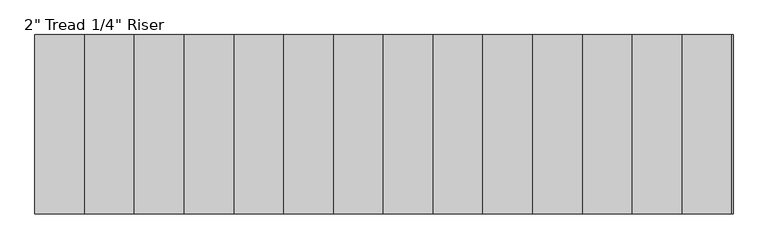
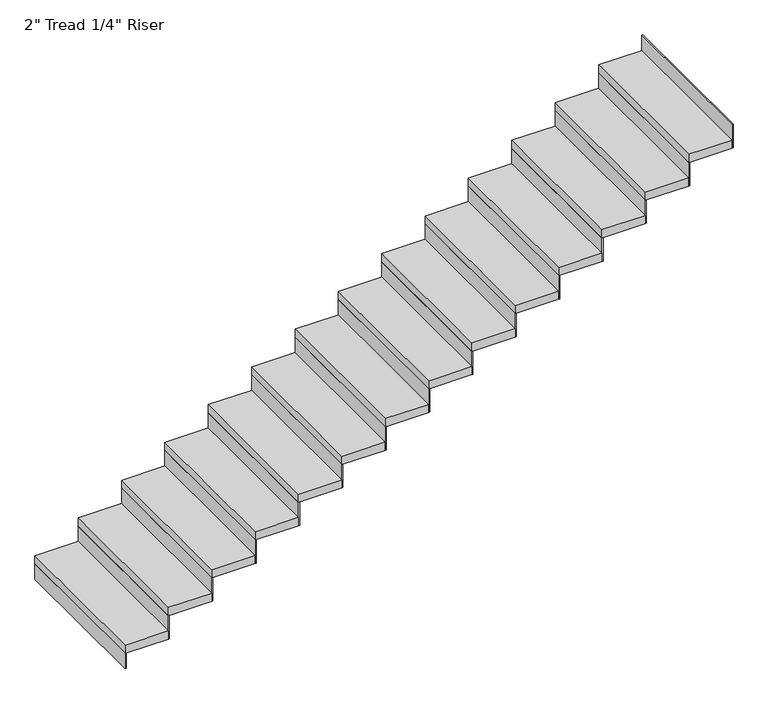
"""IFC4 building model written with IfcOpenShell, lengths in millimetres: stair flight geometry."""

from ifc_helpers import new_model, si_unit, frame, origin, origin_with_axes, place, context, project, spatial, polyline, outline, extrude, source, transform, mapped, element, save


def stair_flight_54aec304(model_context):
    return source(origin(), model_context, "Body", "SweptSolid", [
        extrude(outline(polyline([(108752.5286089, -18868.6990002), (108746.1786089, -18868.6990002), (108746.1786089, -17954.2990002), (108752.5286089, -17954.2990002), (108752.5286089, -18868.6990002)])), origin_with_axes(), (0.0, 0.0, 1.0), 94.3428571),
        extrude(outline(polyline([(109000.1786089, -17954.2990002), (109000.1786089, -18868.6990002), (108746.1786089, -18868.6990002), (108746.1786089, -17954.2990002), (109000.1786089, -17954.2990002)])), frame((0.0, 0.0, 94.3428571), z_axis=(0.0, 0.0, 1.0), x_axis=(1.0, 0.0, 0.0)), (0.0, 0.0, 1.0), 50.8),
        extrude(outline(polyline([(109006.5286089, -18868.6990002), (109000.1786089, -18868.6990002), (109000.1786089, -17954.2990002), (109006.5286089, -17954.2990002), (109006.5286089, -18868.6990002)])), frame((0.0, 0.0, 94.3428571), z_axis=(0.0, 0.0, 1.0), x_axis=(1.0, 0.0, 0.0)), (0.0, 0.0, 1.0), 145.1428571),
        extrude(outline(polyline([(109254.1786089, -17954.2990002), (109254.1786089, -18868.6990002), (109000.1786089, -18868.6990002), (109000.1786089, -17954.2990002), (109254.1786089, -17954.2990002)])), frame((0.0, 0.0, 239.4857143), z_axis=(0.0, 0.0, 1.0), x_axis=(1.0, 0.0, 0.0)), (0.0, 0.0, 1.0), 50.8),
        extrude(outline(polyline([(109260.5286089, -18868.6990002), (109254.1786089, -18868.6990002), (109254.1786089, -17954.2990002), (109260.5286089, -17954.2990002), (109260.5286089, -18868.6990002)])), frame((0.0, 0.0, 239.4857143), z_axis=(0.0, 0.0, 1.0), x_axis=(1.0, 0.0, 0.0)), (0.0, 0.0, 1.0), 145.1428571),
        extrude(outline(polyline([(109508.1786089, -17954.2990002), (109508.1786089, -18868.6990002), (109254.1786089, -18868.6990002), (109254.1786089, -17954.2990002), (109508.1786089, -17954.2990002)])), frame((0.0, 0.0, 384.6285714), z_axis=(0.0, 0.0, 1.0), x_axis=(1.0, 0.0, 0.0)), (0.0, 0.0, 1.0), 50.8),
        extrude(outline(polyline([(109514.5286089, -18868.6990002), (109508.1786089, -18868.6990002), (109508.1786089, -17954.2990002), (109514.5286089, -17954.2990002), (109514.5286089, -18868.6990002)])), frame((0.0, 0.0, 384.6285714), z_axis=(0.0, 0.0, 1.0), x_axis=(1.0, 0.0, 0.0)), (0.0, 0.0, 1.0), 145.1428571),
        extrude(outline(polyline([(109762.1786089, -17954.2990002), (109762.1786089, -18868.6990002), (109508.1786089, -18868.6990002), (109508.1786089, -17954.2990002), (109762.1786089, -17954.2990002)])), frame((0.0, 0.0, 529.7714286), z_axis=(0.0, 0.0, 1.0), x_axis=(1.0, 0.0, 0.0)), (0.0, 0.0, 1.0), 50.8),
        extrude(outline(polyline([(109768.5286089, -18868.6990002), (109762.1786089, -18868.6990002), (109762.1786089, -17954.2990002), (109768.5286089, -17954.2990002), (109768.5286089, -18868.6990002)])), frame((0.0, 0.0, 529.7714286), z_axis=(0.0, 0.0, 1.0), x_axis=(1.0, 0.0, 0.0)), (0.0, 0.0, 1.0), 145.1428571),
        extrude(outline(polyline([(110016.1786089, -17954.2990002), (110016.1786089, -18868.6990002), (109762.1786089, -18868.6990002), (109762.1786089, -17954.2990002), (110016.1786089, -17954.2990002)])), frame((0.0, 0.0, 674.9142857), z_axis=(0.0, 0.0, 1.0), x_axis=(1.0, 0.0, 0.0)), (0.0, 0.0, 1.0), 50.8),
        extrude(outline(polyline([(110022.5286089, -18868.6990002), (110016.1786089, -18868.6990002), (110016.1786089, -17954.2990002), (110022.5286089, -17954.2990002), (110022.5286089, -18868.6990002)])), frame((0.0, 0.0, 674.9142857), z_axis=(0.0, 0.0, 1.0), x_axis=(1.0, 0.0, 0.0)), (0.0, 0.0, 1.0), 145.1428571),
        extrude(outline(polyline([(110270.1786089, -17954.2990002), (110270.1786089, -18868.6990002), (110016.1786089, -18868.6990002), (110016.1786089, -17954.2990002), (110270.1786089, -17954.2990002)])), frame((0.0, 0.0, 820.0571429), z_axis=(0.0, 0.0, 1.0), x_axis=(1.0, 0.0, 0.0)), (0.0, 0.0, 1.0), 50.8),
        extrude(outline(polyline([(110276.5286089, -18868.6990002), (110270.1786089, -18868.6990002), (110270.1786089, -17954.2990002), (110276.5286089, -17954.2990002), (110276.5286089, -18868.6990002)])), frame((0.0, 0.0, 820.0571429), z_axis=(0.0, 0.0, 1.0), x_axis=(1.0, 0.0, 0.0)), (0.0, 0.0, 1.0), 145.1428571),
        extrude(outline(polyline([(110524.1786089, -17954.2990002), (110524.1786089, -18868.6990002), (110270.1786089, -18868.6990002), (110270.1786089, -17954.2990002), (110524.1786089, -17954.2990002)])), frame((0.0, 0.0, 965.2), z_axis=(0.0, 0.0, 1.0), x_axis=(1.0, 0.0, 0.0)), (0.0, 0.0, 1.0), 50.8),
        extrude(outline(polyline([(110530.5286089, -18868.6990002), (110524.1786089, -18868.6990002), (110524.1786089, -17954.2990002), (110530.5286089, -17954.2990002), (110530.5286089, -18868.6990002)])), frame((0.0, 0.0, 965.2), z_axis=(0.0, 0.0, 1.0), x_axis=(1.0, 0.0, 0.0)), (0.0, 0.0, 1.0), 145.1428571),
        extrude(outline(polyline([(110778.1786089, -17954.2990002), (110778.1786089, -18868.6990002), (110524.1786089, -18868.6990002), (110524.1786089, -17954.2990002), (110778.1786089, -17954.2990002)])), frame((0.0, 0.0, 1110.3428571), z_axis=(0.0, 0.0, 1.0), x_axis=(1.0, 0.0, 0.0)), (0.0, 0.0, 1.0), 50.8),
        extrude(outline(polyline([(110784.5286089, -18868.6990002), (110778.1786089, -18868.6990002), (110778.1786089, -17954.2990002), (110784.5286089, -17954.2990002), (110784.5286089, -18868.6990002)])), frame((0.0, 0.0, 1110.3428571), z_axis=(0.0, 0.0, 1.0), x_axis=(1.0, 0.0, 0.0)), (0.0, 0.0, 1.0), 145.1428571),
        extrude(outline(polyline([(111032.1786089, -17954.2990002), (111032.1786089, -18868.6990002), (110778.1786089, -18868.6990002), (110778.1786089, -17954.2990002), (111032.1786089, -17954.2990002)])), frame((0.0, 0.0, 1255.4857143), z_axis=(0.0, 0.0, 1.0), x_axis=(1.0, 0.0, 0.0)), (0.0, 0.0, 1.0), 50.8),
        extrude(outline(polyline([(111038.5286089, -18868.6990002), (111032.1786089, -18868.6990002), (111032.1786089, -17954.2990002), (111038.5286089, -17954.2990002), (111038.5286089, -18868.6990002)])), frame((0.0, 0.0, 1255.4857143), z_axis=(0.0, 0.0, 1.0), x_axis=(1.0, 0.0, 0.0)), (0.0, 0.0, 1.0), 145.1428571),
        extrude(outline(polyline([(111286.1786089, -17954.2990002), (111286.1786089, -18868.6990002), (111032.1786089, -18868.6990002), (111032.1786089, -17954.2990002), (111286.1786089, -17954.2990002)])), frame((0.0, 0.0, 1400.6285714), z_axis=(0.0, 0.0, 1.0), x_axis=(1.0, 0.0, 0.0)), (0.0, 0.0, 1.0), 50.8),
        extrude(outline(polyline([(111292.5286089, -18868.6990002), (111286.1786089, -18868.6990002), (111286.1786089, -17954.2990002), (111292.5286089, -17954.2990002), (111292.5286089, -18868.6990002)])), frame((0.0, 0.0, 1400.6285714), z_axis=(0.0, 0.0, 1.0), x_axis=(1.0, 0.0, 0.0)), (0.0, 0.0, 1.0), 145.1428571),
        extrude(outline(polyline([(111540.1786089, -17954.2990002), (111540.1786089, -18868.6990002), (111286.1786089, -18868.6990002), (111286.1786089, -17954.2990002), (111540.1786089, -17954.2990002)])), frame((0.0, 0.0, 1545.7714286), z_axis=(0.0, 0.0, 1.0), x_axis=(1.0, 0.0, 0.0)), (0.0, 0.0, 1.0), 50.8),
        extrude(outline(polyline([(111546.5286089, -18868.6990002), (111540.1786089, -18868.6990002), (111540.1786089, -17954.2990002), (111546.5286089, -17954.2990002), (111546.5286089, -18868.6990002)])), frame((0.0, 0.0, 1545.7714286), z_axis=(0.0, 0.0, 1.0), x_axis=(1.0, 0.0, 0.0)), (0.0, 0.0, 1.0), 145.1428571),
        extrude(outline(polyline([(111794.1786089, -17954.2990002), (111794.1786089, -18868.6990002), (111540.1786089, -18868.6990002), (111540.1786089, -17954.2990002), (111794.1786089, -17954.2990002)])), frame((0.0, 0.0, 1690.9142857), z_axis=(0.0, 0.0, 1.0), x_axis=(1.0, 0.0, 0.0)), (0.0, 0.0, 1.0), 50.8),
        extrude(outline(polyline([(111800.5286089, -18868.6990002), (111794.1786089, -18868.6990002), (111794.1786089, -17954.2990002), (111800.5286089, -17954.2990002), (111800.5286089, -18868.6990002)])), frame((0.0, 0.0, 1690.9142857), z_axis=(0.0, 0.0, 1.0), x_axis=(1.0, 0.0, 0.0)), (0.0, 0.0, 1.0), 145.1428571),
        extrude(outline(polyline([(112048.1786089, -17954.2990002), (112048.1786089, -18868.6990002), (111794.1786089, -18868.6990002), (111794.1786089, -17954.2990002), (112048.1786089, -17954.2990002)])), frame((0.0, 0.0, 1836.0571429), z_axis=(0.0, 0.0, 1.0), x_axis=(1.0, 0.0, 0.0)), (0.0, 0.0, 1.0), 50.8),
        extrude(outline(polyline([(112054.5286089, -18868.6990002), (112048.1786089, -18868.6990002), (112048.1786089, -17954.2990002), (112054.5286089, -17954.2990002), (112054.5286089, -18868.6990002)])), frame((0.0, 0.0, 1836.0571429), z_axis=(0.0, 0.0, 1.0), x_axis=(1.0, 0.0, 0.0)), (0.0, 0.0, 1.0), 145.1428571),
        extrude(outline(polyline([(112308.5286089, -18868.6990002), (112302.1786089, -18868.6990002), (112302.1786089, -17954.2990002), (112308.5286089, -17954.2990002), (112308.5286089, -18868.6990002)])), frame((0.0, 0.0, 1981.2), z_axis=(0.0, 0.0, 1.0), x_axis=(1.0, 0.0, 0.0)), (0.0, 0.0, 1.0), 145.1428571),
        extrude(outline(polyline([(112302.1786089, -17954.2990002), (112302.1786089, -18868.6990002), (112048.1786089, -18868.6990002), (112048.1786089, -17954.2990002), (112302.1786089, -17954.2990002)])), frame((0.0, 0.0, 1981.2), z_axis=(0.0, 0.0, 1.0), x_axis=(1.0, 0.0, 0.0)), (0.0, 0.0, 1.0), 50.8),
    ])


if __name__ == "__main__":
    model = new_model("IFC4")
    model_context = context("Model", 3, world=origin())
    ifc_project = project(units=[si_unit("LENGTHUNIT", "METRE", prefix="MILLI")], contexts=[model_context])
    site = spatial("IfcSite", under=ifc_project)
    building = spatial("IfcBuilding", under=site)
    placement = place(None, origin())
    stair_flight_shape = stair_flight_54aec304(model_context)
    element("IfcStairFlight", 1, ObjectType="2\" Tread 1/4\" Riser", at=placement, inside=building, context=model_context, shape_type="MappedRepresentation", body=[
        mapped(stair_flight_shape, transform((0.0, 0.0, 0.0), x_axis=(1.0, 0.0, 0.0), y_axis=(0.0, 1.0, 0.0), z_axis=(0.0, 0.0, 1.0))),
    ])
    save(model, "model.ifc")
